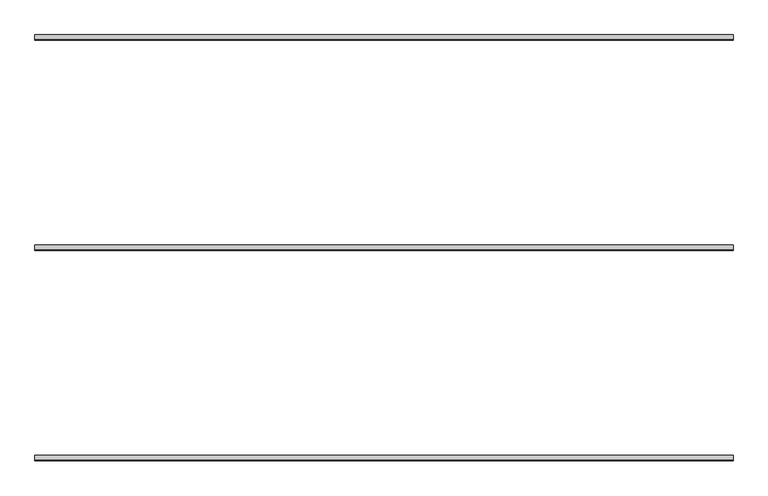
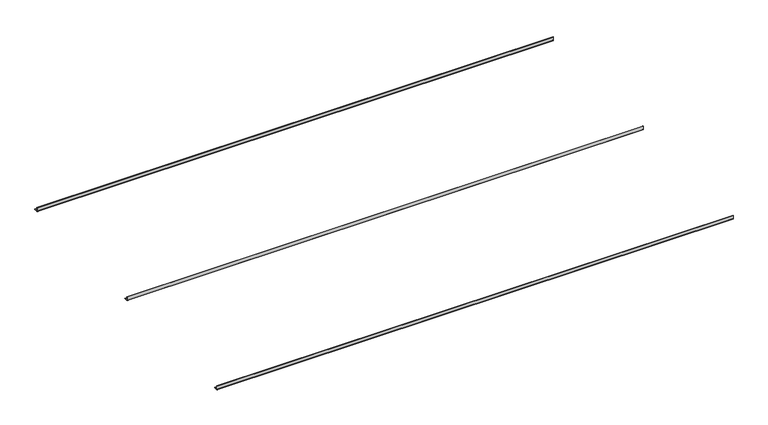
"""IFC4 building model written with IfcOpenShell, lengths in millimetres: proxy geometry, durlum_S4 : durlum_S4."""

import ifcopenshell
import ifcopenshell.guid

model = None  # the IFC model being written
_history = None  # IfcOwnerHistory: only IFC2X3 demands one
_inside = {}  # id of a spatial element -> (the spatial element, [elements in it])
_under = {}  # id of a project, library or spatial element -> (it, [spatial elements below it])
_declared = {}  # id of a project -> (the project, [libraries it declares])
_typed = {}  # id of a type object -> (the type object, [elements of that type])
_made_of = {}  # id of a material, layer set ... -> (it, [elements and type objects made of it])


def new_model(schema):
    """Start an empty IFC model of exactly this schema.

    Asked for "IFC4X3", IfcOpenShell would pick the latest addendum, in which some entities
    have other attributes; the version numbers below select the first issue.
    IFC2X3 requires an IfcOwnerHistory on every rooted entity: one is made here for all.
    """
    global model, _history
    if schema == "IFC4X3":
        model = ifcopenshell.file(schema_version=(4, 3, 0, 0))
    else:
        model = ifcopenshell.file(schema=schema)
    _inside.clear()
    _under.clear()
    _declared.clear()
    _typed.clear()
    _made_of.clear()
    _history = None
    if model.schema == "IFC2X3":
        org = make("IfcOrganization", Name="unknown")
        user = make(
            "IfcPersonAndOrganization",
            ThePerson=make("IfcPerson", FamilyName="unknown"),
            TheOrganization=org,
        )
        app = make(
            "IfcApplication",
            ApplicationDeveloper=org,
            Version="unknown",
            ApplicationFullName="unknown",
            ApplicationIdentifier="unknown",
        )
        _history = make(
            "IfcOwnerHistory",
            OwningUser=user,
            OwningApplication=app,
            ChangeAction="ADDED",
            CreationDate=0,
        )
    return model


def make(cls, **values):
    """One entity of the class cls with the attributes given. An attribute that is None is left unset."""
    return model.create_entity(
        cls, **{name: value for name, value in values.items() if value is not None}
    )


def rooted(cls, **values):
    """An entity with a GlobalId (a new one), such as an element, a storey or a relation."""
    return make(cls, GlobalId=ifcopenshell.guid.new(), OwnerHistory=_history, **values)


def si_unit(unit_type, name, prefix=None):
    """IfcSIUnit, for example si_unit("LENGTHUNIT", "METRE", prefix="MILLI")."""
    return make("IfcSIUnit", UnitType=unit_type, Prefix=prefix, Name=name)


def assignment(units):
    """IfcUnitAssignment: the units of a project."""
    return None if units is None else make("IfcUnitAssignment", Units=units)


def point(xyz):
    """IfcCartesianPoint."""
    return None if xyz is None else make("IfcCartesianPoint", Coordinates=xyz)


def direction(xyz):
    """IfcDirection."""
    return None if xyz is None else make("IfcDirection", DirectionRatios=xyz)


def frame(location, z_axis=None, x_axis=None):
    """IfcAxis2Placement3D, a coordinate frame: its origin and axes. An axis left out is left unset."""
    return make(
        "IfcAxis2Placement3D",
        Location=point(location),
        Axis=direction(z_axis),
        RefDirection=direction(x_axis),
    )


def frame_2d(location, x_axis=None):
    """IfcAxis2Placement2D, a coordinate frame in the plane: its origin and x axis."""
    return make(
        "IfcAxis2Placement2D", Location=point(location), RefDirection=direction(x_axis)
    )


def origin():
    """The frame at (0, 0, 0) with its axes left unset."""
    return frame((0.0, 0.0, 0.0))


def place(relative_to, where):
    """IfcLocalPlacement: puts the frame where relative to a parent placement (None: the world)."""
    return make(
        "IfcLocalPlacement", PlacementRelTo=relative_to, RelativePlacement=where
    )


def context(
    kind, dimensions, precision=None, world=None, true_north=None, identifier=None
):
    """IfcGeometricRepresentationContext, for example the 3D "Model" context."""
    return make(
        "IfcGeometricRepresentationContext",
        ContextIdentifier=identifier,
        ContextType=kind,
        CoordinateSpaceDimension=dimensions,
        Precision=precision,
        WorldCoordinateSystem=world,
        TrueNorth=true_north,
    )


def project(units=None, contexts=None):
    """IfcProject with its units and contexts."""
    return rooted(
        "IfcProject",
        Name="project",
        RepresentationContexts=contexts,
        UnitsInContext=assignment(units),
    )


def spatial(cls, under=None, at=None, **own):
    """A site, building, storey or space (cls), placed at a placement, below another one or the project."""
    s = rooted(cls, ObjectPlacement=at, **own)
    if under is not None:
        _under.setdefault(under.id(), (under, []))[1].append(s)
    return s


def polyline(points):
    """IfcPolyline through the points."""
    return make("IfcPolyline", Points=[point(p) for p in points])


def circle_curve(where, radius):
    """IfcCircle in the frame where."""
    return make("IfcCircle", Position=where, Radius=radius)


def trimmed(basis, trim1, trim2, sense, master):
    """IfcTrimmedCurve: the piece of a basis curve between two trims."""
    return make(
        "IfcTrimmedCurve",
        BasisCurve=basis,
        Trim1=trim1,
        Trim2=trim2,
        SenseAgreement=sense,
        MasterRepresentation=master,
    )


def segment(curve, same_sense, transition):
    """IfcCompositeCurveSegment."""
    return make(
        "IfcCompositeCurveSegment",
        Transition=transition,
        SameSense=same_sense,
        ParentCurve=curve,
    )


def composite_curve(segments, self_intersect=None):
    """IfcCompositeCurve: segments joined end to end."""
    return make("IfcCompositeCurve", Segments=segments, SelfIntersect=self_intersect)


def outline(outer, holes=None, kind="AREA"):
    """IfcArbitraryClosedProfileDef: a profile drawn as a closed curve; with holes, ...WithVoids."""
    if holes is None:
        return make("IfcArbitraryClosedProfileDef", ProfileType=kind, OuterCurve=outer)
    return make(
        "IfcArbitraryProfileDefWithVoids",
        ProfileType=kind,
        OuterCurve=outer,
        InnerCurves=holes,
    )


def extrude(swept, where, along, depth):
    """IfcExtrudedAreaSolid: the profile swept, set in the frame where, extruded along a direction by depth."""
    return make(
        "IfcExtrudedAreaSolid",
        SweptArea=swept,
        Position=where,
        ExtrudedDirection=direction(along),
        Depth=depth,
    )


def shape(context_of_items, identifier, shape_type, items):
    """IfcShapeRepresentation: the items that make up one representation, for example the "Body"."""
    return make(
        "IfcShapeRepresentation",
        ContextOfItems=context_of_items,
        RepresentationIdentifier=identifier,
        RepresentationType=shape_type,
        Items=items,
    )


def source(mapping_origin, context_of_items, identifier, shape_type, items):
    """IfcRepresentationMap: a shape defined once, which mapped items show again and again."""
    return make(
        "IfcRepresentationMap",
        MappingOrigin=mapping_origin,
        MappedRepresentation=shape(context_of_items, identifier, shape_type, items),
    )


def transform(
    local_origin,
    x_axis=None,
    y_axis=None,
    z_axis=None,
    scale=None,
    scale2=None,
    scale3=None,
    uniform=True,
):
    """IfcCartesianTransformationOperator3D, or its non-uniform kind. x_axis, y_axis, z_axis: its Axis1, 2, 3."""
    if uniform:
        return make(
            "IfcCartesianTransformationOperator3D",
            Axis1=direction(x_axis),
            Axis2=direction(y_axis),
            LocalOrigin=point(local_origin),
            Scale=scale,
            Axis3=direction(z_axis),
        )
    return make(
        "IfcCartesianTransformationOperator3DnonUniform",
        Axis1=direction(x_axis),
        Axis2=direction(y_axis),
        LocalOrigin=point(local_origin),
        Scale=scale,
        Axis3=direction(z_axis),
        Scale2=scale2,
        Scale3=scale3,
    )


def mapped(mapping_source, mapping_target):
    """IfcMappedItem: shows the shape of a source again, moved by a transform."""
    return make(
        "IfcMappedItem", MappingSource=mapping_source, MappingTarget=mapping_target
    )


def made_of(thing, what):
    """Note that an element or type object is made of a material, layer set ...; save() writes the relation."""
    if what is not None:
        _made_of.setdefault(what.id(), (what, []))[1].append(thing)
    return thing


def element(
    cls,
    number,
    at=None,
    inside=None,
    cuts=None,
    type_object=None,
    material=None,
    context=None,
    identifier="Body",
    shape_type=None,
    held_by="IfcProductDefinitionShape",
    body=None,
    shapes=None,
    **own,
):
    """One element of the class cls, such as IfcWall. Its Tag is "e" and its number.

    at: its placement. inside: the storey or other place that contains it. cuts: it is an
    opening in that element (IfcRelVoidsElement). A single representation is given by context,
    identifier, shape_type and body (its items); several are given by shapes. held_by: the class
    of the entity that holds the representations. save() writes the other relations.
    """
    e = rooted(cls, Tag="e%d" % number, ObjectPlacement=at, **own)
    if body is not None:
        shapes = [shape(context, identifier, shape_type, body)]
    if shapes is not None:
        e.Representation = make(held_by, Representations=shapes)
    if inside is not None:
        _inside.setdefault(inside.id(), (inside, []))[1].append(e)
    if cuts is not None:
        rooted(
            "IfcRelVoidsElement", RelatingBuildingElement=cuts, RelatedOpeningElement=e
        )
    if type_object is not None:
        _typed.setdefault(type_object.id(), (type_object, []))[1].append(e)
    return made_of(e, material)


def aggregate(whole, parts):
    """IfcRelAggregates: a whole, such as a stair, and the parts it consists of."""
    return rooted("IfcRelAggregates", RelatingObject=whole, RelatedObjects=parts)


def save(model, path):
    """Write the relations noted so far, then the file.

    IfcRelAggregates (storeys below a building ...), IfcRelContainedInSpatialStructure (elements
    in a storey), IfcRelDefinesByType, IfcRelAssociatesMaterial and IfcRelDeclares: one each for
    every whole, place, type object, material and project.
    """
    for whole, parts in _under.values():
        aggregate(whole, parts)
    for where, things in _inside.values():
        rooted(
            "IfcRelContainedInSpatialStructure",
            RelatedElements=things,
            RelatingStructure=where,
        )
    for kind, things in _typed.values():
        rooted("IfcRelDefinesByType", RelatedObjects=things, RelatingType=kind)
    for what, things in _made_of.values():
        rooted("IfcRelAssociatesMaterial", RelatedObjects=things, RelatingMaterial=what)
    for by, libraries in _declared.values():
        rooted("IfcRelDeclares", RelatingContext=by, RelatedDefinitions=libraries)
    model.write(path)


def generic_models_831c42b2(model_context):
    return source(origin(), model_context, "Body", "SweptSolid", [
        extrude(outline(composite_curve([segment(polyline([(2.0, 5407.0851536), (2.0, 5381.1851536)]), True, "CONTINUOUS"), segment(trimmed(circle_curve(frame_2d((4.0, 5381.1851536)), 2.0), [point((2.0, 5381.1851536))], [point((4.0, 5379.1851536))], True, "CARTESIAN"), True, "CONTINUOUS"), segment(polyline([(4.0, 5379.1851536), (29.9, 5379.1851536), (29.9, 5377.1851536), (4.0, 5377.1851536)]), True, "CONTINUOUS"), segment(trimmed(circle_curve(frame_2d((4.0, 5381.1851536)), 4.0), [point((4.0, 5377.1851536))], [point((0.0, 5381.1851536))], False, "CARTESIAN"), True, "CONTINUOUS"), segment(polyline([(0.0, 5381.1851536), (0.0, 5407.0851536), (2.0, 5407.0851536)]), True, "CONTINUOUS")], self_intersect=False)), frame((-1990.0, 0.0, 0.0), z_axis=(1.0, 0.0, 0.0), x_axis=(0.0, 1.0, 0.0)), (0.0, 0.0, 1.0), 3980.0),
        extrude(outline(composite_curve([segment(polyline([(-1198.0, 5407.0851536), (-1198.0, 5381.1851536)]), True, "CONTINUOUS"), segment(trimmed(circle_curve(frame_2d((-1196.0, 5381.1851536)), 2.0), [point((-1198.0, 5381.1851536))], [point((-1196.0, 5379.1851536))], True, "CARTESIAN"), True, "CONTINUOUS"), segment(polyline([(-1196.0, 5379.1851536), (-1170.1, 5379.1851536), (-1170.1, 5377.1851536), (-1196.0, 5377.1851536)]), True, "CONTINUOUS"), segment(trimmed(circle_curve(frame_2d((-1196.0, 5381.1851536)), 4.0), [point((-1196.0, 5377.1851536))], [point((-1200.0, 5381.1851536))], False, "CARTESIAN"), True, "CONTINUOUS"), segment(polyline([(-1200.0, 5381.1851536), (-1200.0, 5407.0851536), (-1198.0, 5407.0851536)]), True, "CONTINUOUS")], self_intersect=False)), frame((-1990.0, 0.0, 0.0), z_axis=(1.0, 0.0, 0.0), x_axis=(0.0, 1.0, 0.0)), (0.0, 0.0, 1.0), 3980.0),
        extrude(outline(composite_curve([segment(polyline([(1202.0, 5407.0851536), (1202.0, 5381.1851536)]), True, "CONTINUOUS"), segment(trimmed(circle_curve(frame_2d((1204.0, 5381.1851536)), 2.0), [point((1202.0, 5381.1851536))], [point((1204.0, 5379.1851536))], True, "CARTESIAN"), True, "CONTINUOUS"), segment(polyline([(1204.0, 5379.1851536), (1229.9, 5379.1851536), (1229.9, 5377.1851536), (1204.0, 5377.1851536)]), True, "CONTINUOUS"), segment(trimmed(circle_curve(frame_2d((1204.0, 5381.1851536)), 4.0), [point((1204.0, 5377.1851536))], [point((1200.0, 5381.1851536))], False, "CARTESIAN"), True, "CONTINUOUS"), segment(polyline([(1200.0, 5381.1851536), (1200.0, 5407.0851536), (1202.0, 5407.0851536)]), True, "CONTINUOUS")], self_intersect=False)), frame((-1990.0, 0.0, 0.0), z_axis=(1.0, 0.0, 0.0), x_axis=(0.0, 1.0, 0.0)), (0.0, 0.0, 1.0), 3980.0),
    ])


if __name__ == "__main__":
    model = new_model("IFC4")
    model_context = context("Model", 3, world=origin())
    ifc_project = project(units=[si_unit("LENGTHUNIT", "METRE", prefix="MILLI")], contexts=[model_context])
    site = spatial("IfcSite", under=ifc_project)
    building = spatial("IfcBuilding", under=site)
    placement = place(None, origin())
    generic_models_shape = generic_models_831c42b2(model_context)
    element("IfcBuildingElementProxy", 1, Name="durlum_S4 : durlum_S4", ObjectType="durlum_S4 : durlum_S4", at=placement, inside=building, context=model_context, shape_type="MappedRepresentation", body=[
        mapped(generic_models_shape, transform((0.0, 0.0, 0.0), x_axis=(1.0, 0.0, 0.0), y_axis=(0.0, 1.0, 0.0), z_axis=(0.0, 0.0, 1.0))),
    ])
    save(model, "model.ifc")
